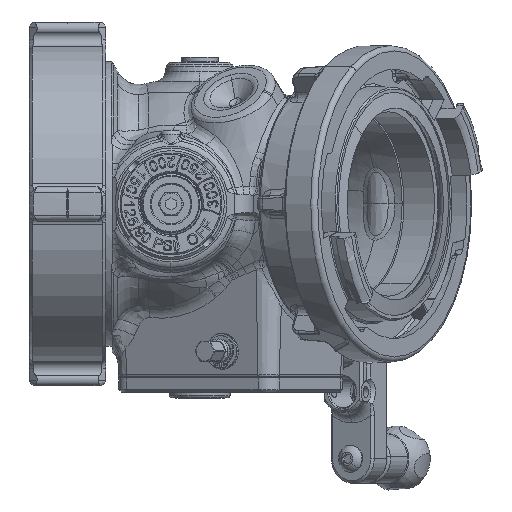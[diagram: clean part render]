
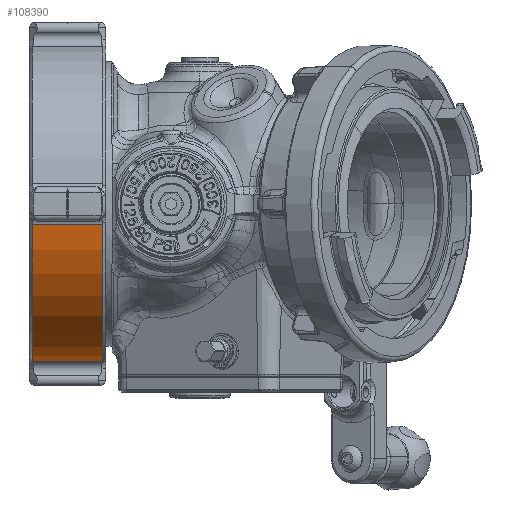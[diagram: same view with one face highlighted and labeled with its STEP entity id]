
A CAD part, front view. The second image highlights one B-rep face of the part: STEP entity #108390.
In plain terms, the highlighted cylindrical face has radius 98.425 mm (diameter 196.85 mm), a partial arc.
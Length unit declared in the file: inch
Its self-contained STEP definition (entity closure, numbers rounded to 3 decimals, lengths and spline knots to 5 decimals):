
#1286 = DIRECTION ( 'NONE',  ( 0., 0., 1. ) ) ;
#2070 = AXIS2_PLACEMENT_3D ( 'NONE', #91604, #31774, #1286 ) ;
#12402 = VECTOR ( 'NONE', #89068, 39.37008 ) ;
#15744 = DIRECTION ( 'NONE',  ( -1., 0., 0. ) ) ;
#17040 = LINE ( 'NONE', #128797, #12402 ) ;
#19713 = CARTESIAN_POINT ( 'NONE',  ( -2.365, -0.5, -3.84261 ) ) ;
#23815 = CARTESIAN_POINT ( 'NONE',  ( -4.078, -3.84261, -0.5 ) ) ;
#24602 = AXIS2_PLACEMENT_3D ( 'NONE', #106112, #15744, #106966 ) ;
#26279 = CIRCLE ( 'NONE', #2070, 3.875 ) ;
#31774 = DIRECTION ( 'NONE',  ( 1., 0., 0. ) ) ;
#33714 = ORIENTED_EDGE ( 'NONE', *, *, #115823, .F. ) ;
#34921 = AXIS2_PLACEMENT_3D ( 'NONE', #54431, #62775, #124351 ) ;
#41450 = VERTEX_POINT ( 'NONE', #75487 ) ;
#45099 = CARTESIAN_POINT ( 'NONE',  ( -4.078, -0.5, -3.84261 ) ) ;
#51666 = CARTESIAN_POINT ( 'NONE',  ( -2.24, -0.5, -3.84261 ) ) ;
#54431 = CARTESIAN_POINT ( 'NONE',  ( -4.078, 0., 0. ) ) ;
#55228 = LINE ( 'NONE', #51666, #112984 ) ;
#59797 = VERTEX_POINT ( 'NONE', #23815 ) ;
#62309 = VERTEX_POINT ( 'NONE', #45099 ) ;
#62775 = DIRECTION ( 'NONE',  ( 1., 0., 0. ) ) ;
#70999 = EDGE_LOOP ( 'NONE', ( #73738, #73025, #33714, #129063 ) ) ;
#71790 = DIRECTION ( 'NONE',  ( -1., 0., 0. ) ) ;
#73025 = ORIENTED_EDGE ( 'NONE', *, *, #79649, .T. ) ;
#73738 = ORIENTED_EDGE ( 'NONE', *, *, #120591, .T. ) ;
#75487 = CARTESIAN_POINT ( 'NONE',  ( -2.365, -3.84261, -0.5 ) ) ;
#79649 = EDGE_CURVE ( 'NONE', #59797, #62309, #104532, .T. ) ;
#86546 = VERTEX_POINT ( 'NONE', #19713 ) ;
#89068 = DIRECTION ( 'NONE',  ( -1., 0., 0. ) ) ;
#91604 = CARTESIAN_POINT ( 'NONE',  ( -2.365, 0., 0. ) ) ;
#102817 = CYLINDRICAL_SURFACE ( 'NONE', #24602, 3.875 ) ;
#104532 = CIRCLE ( 'NONE', #34921, 3.875 ) ;
#106112 = CARTESIAN_POINT ( 'NONE',  ( -2.24, 0., 0. ) ) ;
#106966 = DIRECTION ( 'NONE',  ( 0., 0., 1. ) ) ;
#108390 = ADVANCED_FACE ( 'NONE', ( #124925 ), #102817, .T. ) ;
#108641 = EDGE_CURVE ( 'NONE', #41450, #86546, #26279, .T. ) ;
#112984 = VECTOR ( 'NONE', #71790, 39.37008 ) ;
#115823 = EDGE_CURVE ( 'NONE', #86546, #62309, #55228, .T. ) ;
#120591 = EDGE_CURVE ( 'NONE', #41450, #59797, #17040, .T. ) ;
#124351 = DIRECTION ( 'NONE',  ( 0., 0., -1. ) ) ;
#124925 = FACE_OUTER_BOUND ( 'NONE', #70999, .T. ) ;
#128797 = CARTESIAN_POINT ( 'NONE',  ( -2.24, -3.84261, -0.5 ) ) ;
#129063 = ORIENTED_EDGE ( 'NONE', *, *, #108641, .F. ) ;
